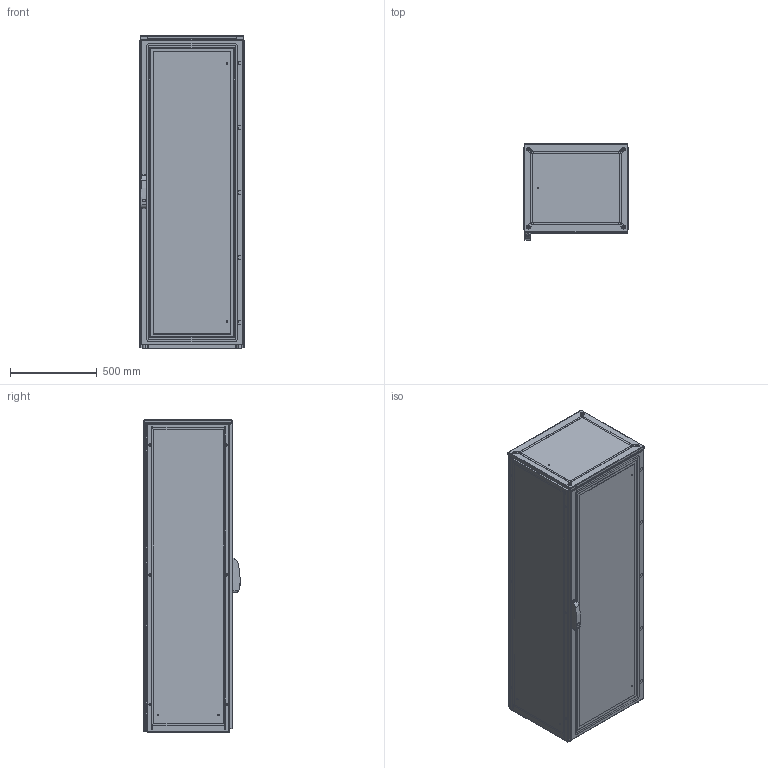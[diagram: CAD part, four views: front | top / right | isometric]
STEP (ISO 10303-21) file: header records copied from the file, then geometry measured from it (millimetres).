
FILE_DESCRIPTION(/* description */ ('STEP AP214'),/* implementation_level */ '2;1');
FILE_NAME(/* name */ 'ENUX061805PR-LOD350',/* time_stamp */ '2025-08-05T11:43:29+02:00',/* author */ ('License CC BY-ND 4.0'),/* organization */ ('CADENAS'),/* preprocessor_version */ 'ST-DEVELOPER v19.3',/* originating_system */ 'PARTsolutions',/* authorisation */ ' ');
FILE_SCHEMA (('AUTOMOTIVE_DESIGN {1 0 10303 214 3 1 1}'));
Length unit declared in the file: millimetre
Products named in the file (10): ENUX061805PR-LOD350; ENUX061805PR-LOD350_CON; ENUX061805PR-LOD350_floor1; ENUX061805PR-LOD350_floor2; Screw M12x30 architecture 350; ENUX061805PR-LOD350_side; ENUX061805PR-LOD350_top; ENUX061805PR-LOD350_back_door; ENUX061805PR-LOD350_door; ENUX061805PR-LOD350_handle
Assembly tree (15 placements, depth 2):
  ENUX061805PR-LOD350
    ENUX061805PR-LOD350_CON
    ENUX061805PR-LOD350_floor1  x2
    ENUX061805PR-LOD350_floor2  x2
    Screw M12x30 architecture 350  x4
    ENUX061805PR-LOD350_side  x2
    ENUX061805PR-LOD350_top
    ENUX061805PR-LOD350_back_door
    ENUX061805PR-LOD350_door
    ENUX061805PR-LOD350_handle
Bounding box: 612 x 557 x 1814.1 mm (x, y, z)
Volume: 17052486.5 mm3; surface area: 14213579.8 mm2
Topology: 15 solids, 15 shells, 1706 faces, 4791 edges, 3124 vertices
Faces by surface type: plane 848, cylinder 693, cone 77, torus 72, sphere 16
Full cylindrical faces by diameter (mm): 4.5 x120, 6 x14, 6.8 x8, 9 x9, 12 x16, 13 x4, 18 x1, 21 x4
Entity records: 45891 total; most frequent: CARTESIAN_POINT 7958, DIRECTION 7943, ORIENTED_EDGE 7464, EDGE_CURVE 3732, AXIS2_PLACEMENT_3D 2831, VERTEX_POINT 2605, LINE 2281, VECTOR 2281
